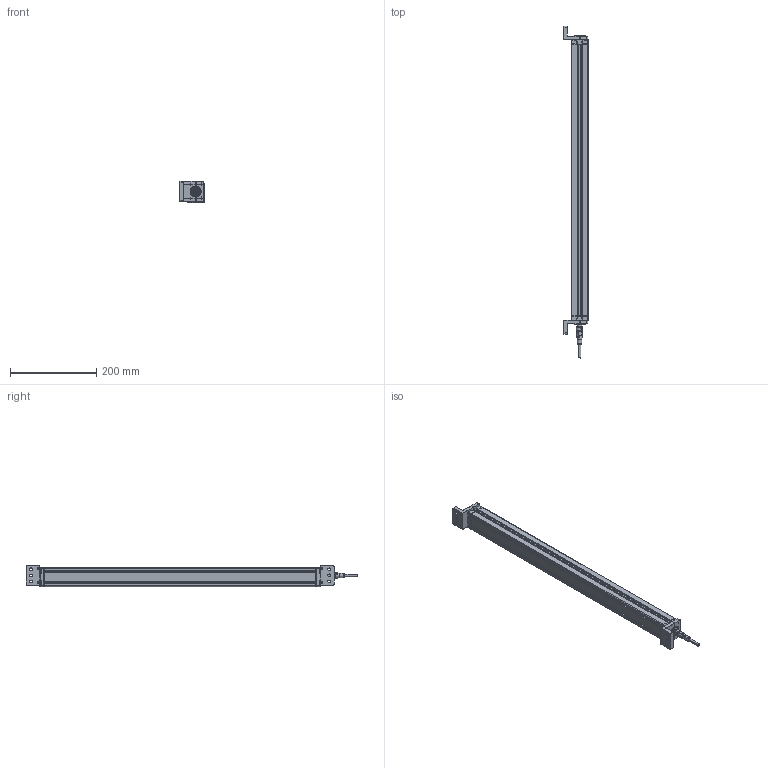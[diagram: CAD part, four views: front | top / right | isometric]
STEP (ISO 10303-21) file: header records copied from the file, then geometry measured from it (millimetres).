
FILE_DESCRIPTION (( 'STEP AP214' ), '1' );
FILE_NAME ('SH10 23.5in with Brackets Step.STEP', '2026-09-02T19:51:55', ( '' ), ( '' ), 'SwSTEP 2.0', 'SolidWorks 2025', '' );
FILE_SCHEMA (( 'AUTOMOTIVE_DESIGN' ));
Length unit declared in the file: millimetre
Products named in the file (4): 600 Solidworks; Cable Female End; SH10 23.5in with Brackets Step; 02-4017-00_V241.stp
Assembly tree (4 placements, depth 2):
  SH10 23.5in with Brackets Step
    600 Solidworks
    02-4017-00_V241.stp  x2
    Cable Female End
Bounding box: 56.2 x 768.64 x 48.75 mm (x, y, z)
Volume: 418587.1 mm3; surface area: 305893 mm2
Topology: 12 solids, 12 shells, 1215 faces, 3151 edges, 1991 vertices
Faces by surface type: cylinder 563, plane 411, bspline 143, torus 52, cone 46
Entity records: 48783 total; most frequent: CARTESIAN_POINT 12992, ORIENTED_EDGE 5752, DIRECTION 5678, EDGE_CURVE 2876, AXIS2_PLACEMENT_3D 2114, VERTEX_POINT 1843, VECTOR 1450, LINE 1450
